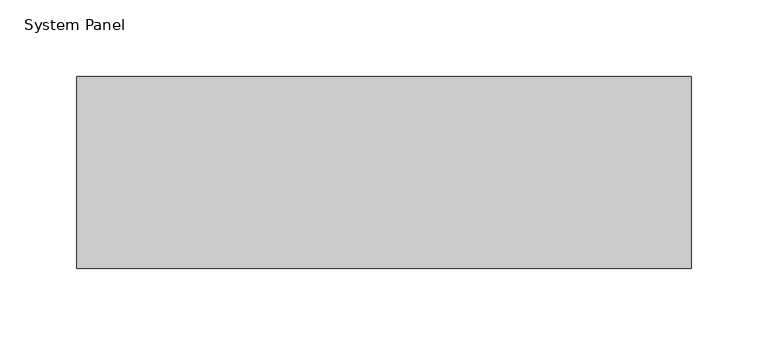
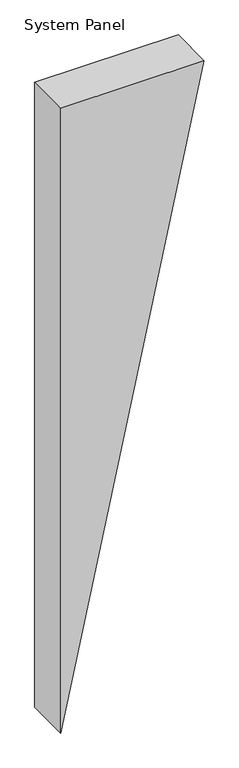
"""IFC4 building model written with IfcOpenShell, lengths in millimetres: plate geometry, System Panel : MetecnoPanel_125mm_Plain_Surfmist."""

from ifc_helpers import new_model, si_unit, frame, origin, place, context, project, spatial, polyline, outline, extrude, source, transform, mapped, element, save


def system_panel_99cabc98(model_context):
    return source(origin(), model_context, "Body", "SweptSolid", [
        extrude(outline(polyline([(1839.9852118, -200.0), (0.0, -200.0), (1839.9852118, 200.0), (1839.9852118, -200.0)])), frame((0.0, -125.0, 0.0), z_axis=(0.0, 1.0, 0.0), x_axis=(0.0, 0.0, 1.0)), (0.0, 0.0, 1.0), 125.0),
    ])


if __name__ == "__main__":
    model = new_model("IFC4")
    model_context = context("Model", 3, world=origin())
    ifc_project = project(units=[si_unit("LENGTHUNIT", "METRE", prefix="MILLI")], contexts=[model_context])
    site = spatial("IfcSite", under=ifc_project)
    building = spatial("IfcBuilding", under=site)
    placement = place(None, origin())
    system_panel_shape = system_panel_99cabc98(model_context)
    element("IfcPlate", 1, ObjectType="System Panel : MetecnoPanel_125mm_Plain_Surfmist", at=placement, inside=building, context=model_context, shape_type="MappedRepresentation", body=[
        mapped(system_panel_shape, transform((0.0, 0.0, 0.0), x_axis=(1.0, 0.0, 0.0), y_axis=(0.0, 1.0, 0.0), z_axis=(0.0, 0.0, 1.0))),
    ])
    save(model, "model.ifc")
